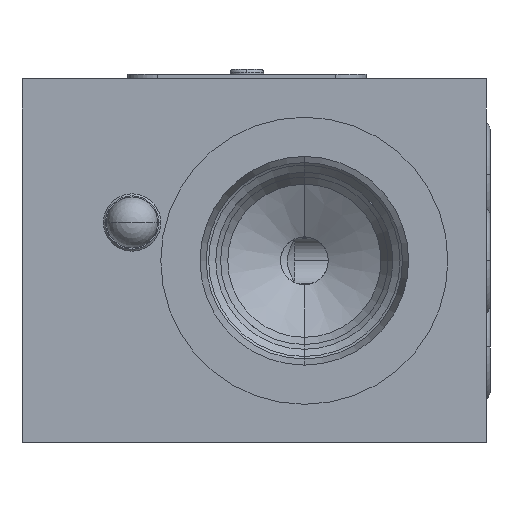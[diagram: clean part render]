
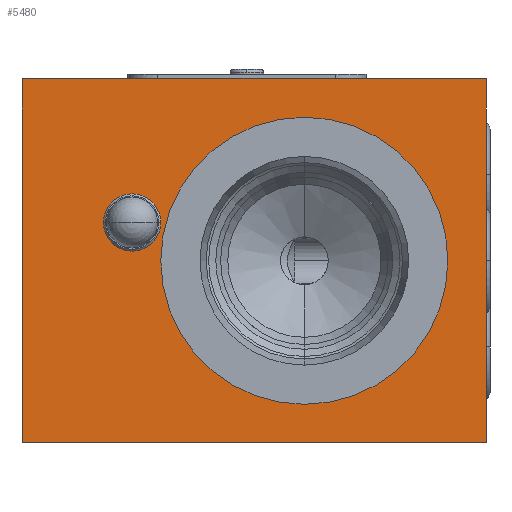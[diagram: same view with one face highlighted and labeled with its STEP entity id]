
A CAD part, left-side view. The second image highlights one B-rep face of the part: STEP entity #5480.
In plain terms, the highlighted planar face has unit normal (-1, 0, 0).
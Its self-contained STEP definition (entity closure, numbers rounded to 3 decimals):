
#51=DIRECTION('',(0.,-1.,0.));
#52=VECTOR('',#51,38.);
#53=CARTESIAN_POINT('',(-60.,38.,0.));
#54=LINE('',#53,#52);
#343=DIRECTION('',(0.,0.,1.));
#344=VECTOR('',#343,48.5);
#345=CARTESIAN_POINT('',(-60.,38.,0.));
#346=LINE('',#345,#344);
#350=CARTESIAN_POINT('',(-60.,23.,11.5));
#351=DIRECTION('',(1.,0.,0.));
#352=DIRECTION('',(0.,-1.,0.));
#353=AXIS2_PLACEMENT_3D('',#350,#351,#352);
#358=CARTESIAN_POINT('',(-60.,23.,11.5));
#359=DIRECTION('',(1.,0.,0.));
#360=DIRECTION('',(0.,1.,0.));
#361=AXIS2_PLACEMENT_3D('',#358,#359,#360);
#366=CARTESIAN_POINT('',(-60.,19.,29.5));
#367=DIRECTION('',(1.,0.,0.));
#368=DIRECTION('',(0.,-1.,0.));
#369=AXIS2_PLACEMENT_3D('',#366,#367,#368);
#374=CARTESIAN_POINT('',(-60.,19.,29.5));
#375=DIRECTION('',(1.,0.,0.));
#376=DIRECTION('',(0.,1.,0.));
#377=AXIS2_PLACEMENT_3D('',#374,#375,#376);
#460=DIRECTION('',(0.,0.,1.));
#461=VECTOR('',#460,48.5);
#462=CARTESIAN_POINT('',(-60.,0.,0.));
#463=LINE('',#462,#461);
#467=DIRECTION('',(0.,-1.,0.));
#468=VECTOR('',#467,38.);
#469=CARTESIAN_POINT('',(-60.,38.,48.5));
#470=LINE('',#469,#468);
#4977=CARTESIAN_POINT('',(-60.,38.,0.));
#4978=CARTESIAN_POINT('',(-60.,0.,0.));
#4979=VERTEX_POINT('',#4977);
#4980=VERTEX_POINT('',#4978);
#4985=CARTESIAN_POINT('',(-60.,38.,48.5));
#4986=CARTESIAN_POINT('',(-60.,0.,48.5));
#4987=VERTEX_POINT('',#4985);
#4988=VERTEX_POINT('',#4986);
#5199=CARTESIAN_POINT('',(-60.,20.,11.5));
#5200=CARTESIAN_POINT('',(-60.,26.,11.5));
#5201=VERTEX_POINT('',#5199);
#5202=VERTEX_POINT('',#5200);
#5337=CARTESIAN_POINT('',(-60.,4.,29.5));
#5338=VERTEX_POINT('',#5337);
#5339=CARTESIAN_POINT('',(-60.,34.,29.5));
#5340=VERTEX_POINT('',#5339);
#5454=CARTESIAN_POINT('',(-60.,38.,0.));
#5455=DIRECTION('',(-1.,0.,0.));
#5456=DIRECTION('',(0.,-1.,0.));
#5457=AXIS2_PLACEMENT_3D('',#5454,#5455,#5456);
#5458=PLANE('',#5457);
#5459=ORIENTED_EDGE('',*,*,#5383,.F.);
#5461=ORIENTED_EDGE('',*,*,#5460,.T.);
#5463=ORIENTED_EDGE('',*,*,#5462,.T.);
#5465=ORIENTED_EDGE('',*,*,#5464,.F.);
#5466=EDGE_LOOP('',(#5459,#5461,#5463,#5465));
#5467=FACE_OUTER_BOUND('',#5466,.F.);
#5469=ORIENTED_EDGE('',*,*,#5468,.F.);
#5471=ORIENTED_EDGE('',*,*,#5470,.F.);
#5472=EDGE_LOOP('',(#5469,#5471));
#5473=FACE_BOUND('',#5472,.F.);
#5475=ORIENTED_EDGE('',*,*,#5474,.F.);
#5477=ORIENTED_EDGE('',*,*,#5476,.F.);
#5478=EDGE_LOOP('',(#5475,#5477));
#5479=FACE_BOUND('',#5478,.F.);
#354=CIRCLE('',#353,3.);
#362=CIRCLE('',#361,3.);
#370=CIRCLE('',#369,15.);
#378=CIRCLE('',#377,15.);
#5383=EDGE_CURVE('',#4979,#4980,#54,.T.);
#5460=EDGE_CURVE('',#4979,#4987,#346,.T.);
#5462=EDGE_CURVE('',#4987,#4988,#470,.T.);
#5464=EDGE_CURVE('',#4980,#4988,#463,.T.);
#5468=EDGE_CURVE('',#5201,#5202,#354,.T.);
#5470=EDGE_CURVE('',#5202,#5201,#362,.T.);
#5474=EDGE_CURVE('',#5338,#5340,#370,.T.);
#5476=EDGE_CURVE('',#5340,#5338,#378,.T.);
#5480=ADVANCED_FACE('',(#5467,#5473,#5479),#5458,.T.);
